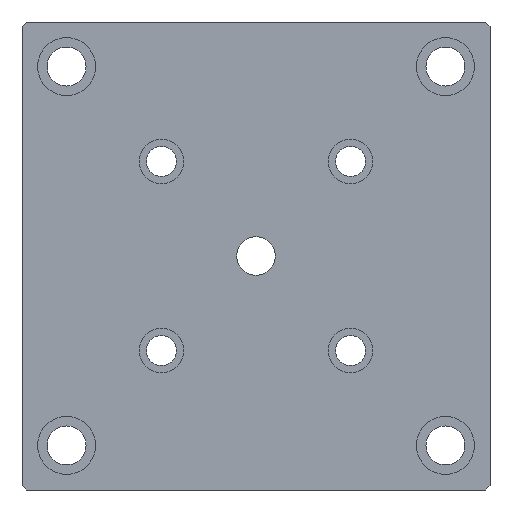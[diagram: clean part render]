
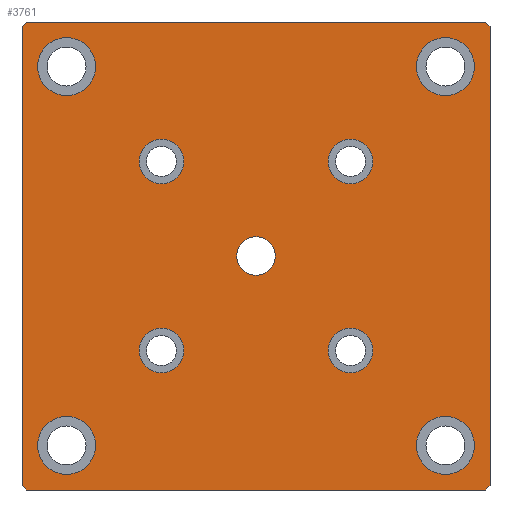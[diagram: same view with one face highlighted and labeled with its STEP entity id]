
A CAD part, front view. The second image highlights one B-rep face of the part: STEP entity #3761.
In plain terms, the highlighted planar face has unit normal (0, -1, 0).
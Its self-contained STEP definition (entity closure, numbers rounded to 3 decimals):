
#45=CIRCLE('',#3884,13.);
#46=CIRCLE('',#3885,13.);
#50=CIRCLE('',#3892,13.);
#51=CIRCLE('',#3893,13.);
#55=CIRCLE('',#3900,13.);
#56=CIRCLE('',#3901,13.);
#60=CIRCLE('',#3908,13.);
#61=CIRCLE('',#3909,13.);
#65=CIRCLE('',#3916,10.);
#66=CIRCLE('',#3917,10.);
#70=CIRCLE('',#3924,10.);
#71=CIRCLE('',#3925,10.);
#75=CIRCLE('',#3932,10.);
#76=CIRCLE('',#3933,10.);
#80=CIRCLE('',#3940,10.);
#81=CIRCLE('',#3941,10.);
#82=CIRCLE('',#3946,8.647);
#115=FACE_BOUND('',#811,.T.);
#116=FACE_BOUND('',#812,.T.);
#117=FACE_BOUND('',#813,.T.);
#118=FACE_BOUND('',#814,.T.);
#119=FACE_BOUND('',#815,.T.);
#120=FACE_BOUND('',#816,.T.);
#121=FACE_BOUND('',#817,.T.);
#122=FACE_BOUND('',#818,.T.);
#123=FACE_BOUND('',#819,.T.);
#577=FACE_OUTER_BOUND('',#810,.T.);
#810=EDGE_LOOP('',(#3411,#3412,#3413,#3414,#3415,#3416,#3417,#3418));
#811=EDGE_LOOP('',(#3419,#3420));
#812=EDGE_LOOP('',(#3421,#3422));
#813=EDGE_LOOP('',(#3423,#3424));
#814=EDGE_LOOP('',(#3425,#3426));
#815=EDGE_LOOP('',(#3427,#3428));
#816=EDGE_LOOP('',(#3429,#3430));
#817=EDGE_LOOP('',(#3431,#3432));
#818=EDGE_LOOP('',(#3433,#3434));
#819=EDGE_LOOP('',(#3435));
#1132=LINE('',#6820,#1452);
#1134=LINE('',#6824,#1454);
#1136=LINE('',#6828,#1456);
#1137=LINE('',#6830,#1457);
#1138=LINE('',#6832,#1458);
#1139=LINE('',#6834,#1459);
#1140=LINE('',#6836,#1460);
#1141=LINE('',#6837,#1461);
#1452=VECTOR('',#4569,10.);
#1454=VECTOR('',#4573,10.);
#1456=VECTOR('',#4577,10.);
#1457=VECTOR('',#4578,10.);
#1458=VECTOR('',#4579,10.);
#1459=VECTOR('',#4580,10.);
#1460=VECTOR('',#4581,10.);
#1461=VECTOR('',#4582,10.);
#1791=VERTEX_POINT('',#6704);
#1792=VERTEX_POINT('',#6705);
#1796=VERTEX_POINT('',#6719);
#1797=VERTEX_POINT('',#6720);
#1801=VERTEX_POINT('',#6734);
#1802=VERTEX_POINT('',#6735);
#1806=VERTEX_POINT('',#6749);
#1807=VERTEX_POINT('',#6750);
#1811=VERTEX_POINT('',#6764);
#1812=VERTEX_POINT('',#6765);
#1816=VERTEX_POINT('',#6779);
#1817=VERTEX_POINT('',#6780);
#1821=VERTEX_POINT('',#6794);
#1822=VERTEX_POINT('',#6795);
#1826=VERTEX_POINT('',#6809);
#1827=VERTEX_POINT('',#6810);
#1828=VERTEX_POINT('',#6817);
#1829=VERTEX_POINT('',#6819);
#1830=VERTEX_POINT('',#6823);
#1831=VERTEX_POINT('',#6827);
#1832=VERTEX_POINT('',#6829);
#1833=VERTEX_POINT('',#6831);
#1834=VERTEX_POINT('',#6833);
#1835=VERTEX_POINT('',#6835);
#1836=VERTEX_POINT('',#6838);
#2311=EDGE_CURVE('',#1791,#1792,#45,.T.);
#2312=EDGE_CURVE('',#1792,#1791,#46,.T.);
#2318=EDGE_CURVE('',#1796,#1797,#50,.T.);
#2319=EDGE_CURVE('',#1797,#1796,#51,.T.);
#2325=EDGE_CURVE('',#1801,#1802,#55,.T.);
#2326=EDGE_CURVE('',#1802,#1801,#56,.T.);
#2332=EDGE_CURVE('',#1806,#1807,#60,.T.);
#2333=EDGE_CURVE('',#1807,#1806,#61,.T.);
#2339=EDGE_CURVE('',#1811,#1812,#65,.T.);
#2340=EDGE_CURVE('',#1812,#1811,#66,.T.);
#2346=EDGE_CURVE('',#1816,#1817,#70,.T.);
#2347=EDGE_CURVE('',#1817,#1816,#71,.T.);
#2353=EDGE_CURVE('',#1821,#1822,#75,.T.);
#2354=EDGE_CURVE('',#1822,#1821,#76,.T.);
#2360=EDGE_CURVE('',#1826,#1827,#80,.T.);
#2361=EDGE_CURVE('',#1827,#1826,#81,.T.);
#2365=EDGE_CURVE('',#1828,#1829,#1132,.T.);
#2367=EDGE_CURVE('',#1830,#1829,#1134,.T.);
#2369=EDGE_CURVE('',#1828,#1831,#1136,.T.);
#2370=EDGE_CURVE('',#1832,#1831,#1137,.T.);
#2371=EDGE_CURVE('',#1832,#1833,#1138,.T.);
#2372=EDGE_CURVE('',#1834,#1833,#1139,.T.);
#2373=EDGE_CURVE('',#1834,#1835,#1140,.T.);
#2374=EDGE_CURVE('',#1830,#1835,#1141,.T.);
#2375=EDGE_CURVE('',#1836,#1836,#82,.T.);
#3411=ORIENTED_EDGE('',*,*,#2365,.F.);
#3412=ORIENTED_EDGE('',*,*,#2369,.T.);
#3413=ORIENTED_EDGE('',*,*,#2370,.F.);
#3414=ORIENTED_EDGE('',*,*,#2371,.T.);
#3415=ORIENTED_EDGE('',*,*,#2372,.F.);
#3416=ORIENTED_EDGE('',*,*,#2373,.T.);
#3417=ORIENTED_EDGE('',*,*,#2374,.F.);
#3418=ORIENTED_EDGE('',*,*,#2367,.T.);
#3419=ORIENTED_EDGE('',*,*,#2311,.T.);
#3420=ORIENTED_EDGE('',*,*,#2312,.T.);
#3421=ORIENTED_EDGE('',*,*,#2318,.T.);
#3422=ORIENTED_EDGE('',*,*,#2319,.T.);
#3423=ORIENTED_EDGE('',*,*,#2325,.T.);
#3424=ORIENTED_EDGE('',*,*,#2326,.T.);
#3425=ORIENTED_EDGE('',*,*,#2332,.T.);
#3426=ORIENTED_EDGE('',*,*,#2333,.T.);
#3427=ORIENTED_EDGE('',*,*,#2339,.T.);
#3428=ORIENTED_EDGE('',*,*,#2340,.T.);
#3429=ORIENTED_EDGE('',*,*,#2346,.T.);
#3430=ORIENTED_EDGE('',*,*,#2347,.T.);
#3431=ORIENTED_EDGE('',*,*,#2353,.T.);
#3432=ORIENTED_EDGE('',*,*,#2354,.T.);
#3433=ORIENTED_EDGE('',*,*,#2360,.T.);
#3434=ORIENTED_EDGE('',*,*,#2361,.T.);
#3435=ORIENTED_EDGE('',*,*,#2375,.T.);
#3561=PLANE('',#3945);
#3761=ADVANCED_FACE('',(#577,#115,#116,#117,#118,#119,#120,#121,#122,#123),
#3561,.F.);
#3884=AXIS2_PLACEMENT_3D('',#6706,#4432,#4433);
#3885=AXIS2_PLACEMENT_3D('',#6707,#4434,#4435);
#3892=AXIS2_PLACEMENT_3D('',#6721,#4450,#4451);
#3893=AXIS2_PLACEMENT_3D('',#6722,#4452,#4453);
#3900=AXIS2_PLACEMENT_3D('',#6736,#4468,#4469);
#3901=AXIS2_PLACEMENT_3D('',#6737,#4470,#4471);
#3908=AXIS2_PLACEMENT_3D('',#6751,#4486,#4487);
#3909=AXIS2_PLACEMENT_3D('',#6752,#4488,#4489);
#3916=AXIS2_PLACEMENT_3D('',#6766,#4504,#4505);
#3917=AXIS2_PLACEMENT_3D('',#6767,#4506,#4507);
#3924=AXIS2_PLACEMENT_3D('',#6781,#4522,#4523);
#3925=AXIS2_PLACEMENT_3D('',#6782,#4524,#4525);
#3932=AXIS2_PLACEMENT_3D('',#6796,#4540,#4541);
#3933=AXIS2_PLACEMENT_3D('',#6797,#4542,#4543);
#3940=AXIS2_PLACEMENT_3D('',#6811,#4558,#4559);
#3941=AXIS2_PLACEMENT_3D('',#6812,#4560,#4561);
#3945=AXIS2_PLACEMENT_3D('',#6826,#4575,#4576);
#3946=AXIS2_PLACEMENT_3D('',#6839,#4583,#4584);
#4432=DIRECTION('center_axis',(0.,1.,0.));
#4433=DIRECTION('ref_axis',(0.,0.,-1.));
#4434=DIRECTION('center_axis',(0.,1.,0.));
#4435=DIRECTION('ref_axis',(0.,0.,-1.));
#4450=DIRECTION('center_axis',(0.,1.,0.));
#4451=DIRECTION('ref_axis',(1.,0.,0.));
#4452=DIRECTION('center_axis',(0.,1.,0.));
#4453=DIRECTION('ref_axis',(1.,0.,0.));
#4468=DIRECTION('center_axis',(0.,1.,0.));
#4469=DIRECTION('ref_axis',(0.,0.,1.));
#4470=DIRECTION('center_axis',(0.,1.,0.));
#4471=DIRECTION('ref_axis',(0.,0.,1.));
#4486=DIRECTION('center_axis',(0.,1.,0.));
#4487=DIRECTION('ref_axis',(-1.,0.,0.));
#4488=DIRECTION('center_axis',(0.,1.,0.));
#4489=DIRECTION('ref_axis',(-1.,0.,0.));
#4504=DIRECTION('center_axis',(0.,1.,0.));
#4505=DIRECTION('ref_axis',(0.,0.,-1.));
#4506=DIRECTION('center_axis',(0.,1.,0.));
#4507=DIRECTION('ref_axis',(0.,0.,-1.));
#4522=DIRECTION('center_axis',(0.,1.,0.));
#4523=DIRECTION('ref_axis',(1.,0.,0.));
#4524=DIRECTION('center_axis',(0.,1.,0.));
#4525=DIRECTION('ref_axis',(1.,0.,0.));
#4540=DIRECTION('center_axis',(0.,1.,0.));
#4541=DIRECTION('ref_axis',(0.,0.,1.));
#4542=DIRECTION('center_axis',(0.,1.,0.));
#4543=DIRECTION('ref_axis',(0.,0.,1.));
#4558=DIRECTION('center_axis',(0.,1.,0.));
#4559=DIRECTION('ref_axis',(-1.,0.,0.));
#4560=DIRECTION('center_axis',(0.,1.,0.));
#4561=DIRECTION('ref_axis',(-1.,0.,0.));
#4569=DIRECTION('',(0.707,0.,-0.707));
#4573=DIRECTION('',(0.,0.,1.));
#4575=DIRECTION('center_axis',(0.,1.,0.));
#4576=DIRECTION('ref_axis',(0.,0.,1.));
#4577=DIRECTION('',(-1.,0.,0.));
#4578=DIRECTION('',(0.707,0.,0.707));
#4579=DIRECTION('',(0.,0.,-1.));
#4580=DIRECTION('',(-0.707,0.,0.707));
#4581=DIRECTION('',(1.,0.,0.));
#4582=DIRECTION('',(-0.707,0.,-0.707));
#4583=DIRECTION('center_axis',(0.,1.,0.));
#4584=DIRECTION('ref_axis',(1.,0.,0.));
#6704=CARTESIAN_POINT('',(-20.,0.,-33.));
#6705=CARTESIAN_POINT('',(-20.,0.,-7.));
#6706=CARTESIAN_POINT('Origin',(-20.,0.,-20.));
#6707=CARTESIAN_POINT('Origin',(-20.,0.,-20.));
#6719=CARTESIAN_POINT('',(-177.,0.,-20.));
#6720=CARTESIAN_POINT('',(-203.,0.,-20.));
#6721=CARTESIAN_POINT('Origin',(-190.,0.,-20.));
#6722=CARTESIAN_POINT('Origin',(-190.,0.,-20.));
#6734=CARTESIAN_POINT('',(-190.,0.,-177.));
#6735=CARTESIAN_POINT('',(-190.,0.,-203.));
#6736=CARTESIAN_POINT('Origin',(-190.,0.,-190.));
#6737=CARTESIAN_POINT('Origin',(-190.,0.,-190.));
#6749=CARTESIAN_POINT('',(-33.,0.,-190.));
#6750=CARTESIAN_POINT('',(-7.,0.,-190.));
#6751=CARTESIAN_POINT('Origin',(-20.,0.,-190.));
#6752=CARTESIAN_POINT('Origin',(-20.,0.,-190.));
#6764=CARTESIAN_POINT('',(-62.574,0.,-72.574));
#6765=CARTESIAN_POINT('',(-62.574,0.,-52.574));
#6766=CARTESIAN_POINT('Origin',(-62.574,0.,-62.574));
#6767=CARTESIAN_POINT('Origin',(-62.574,0.,-62.574));
#6779=CARTESIAN_POINT('',(-137.426,0.,-62.574));
#6780=CARTESIAN_POINT('',(-157.426,0.,-62.574));
#6781=CARTESIAN_POINT('Origin',(-147.426,0.,-62.574));
#6782=CARTESIAN_POINT('Origin',(-147.426,0.,-62.574));
#6794=CARTESIAN_POINT('',(-147.426,0.,-137.426));
#6795=CARTESIAN_POINT('',(-147.426,0.,-157.426));
#6796=CARTESIAN_POINT('Origin',(-147.426,0.,-147.426));
#6797=CARTESIAN_POINT('Origin',(-147.426,0.,-147.426));
#6809=CARTESIAN_POINT('',(-72.574,0.,-147.426));
#6810=CARTESIAN_POINT('',(-52.574,0.,-147.426));
#6811=CARTESIAN_POINT('Origin',(-62.574,0.,-147.426));
#6812=CARTESIAN_POINT('Origin',(-62.574,0.,-147.426));
#6817=CARTESIAN_POINT('',(-2.,0.,0.));
#6819=CARTESIAN_POINT('',(0.,0.,-2.));
#6820=CARTESIAN_POINT('',(-1.,0.,-1.));
#6823=CARTESIAN_POINT('',(0.,0.,-208.));
#6824=CARTESIAN_POINT('',(0.,0.,-210.));
#6826=CARTESIAN_POINT('Origin',(-105.,0.,-105.));
#6827=CARTESIAN_POINT('',(-208.,0.,0.));
#6828=CARTESIAN_POINT('',(0.,0.,0.));
#6829=CARTESIAN_POINT('',(-210.,0.,-2.));
#6830=CARTESIAN_POINT('',(-209.,0.,-1.));
#6831=CARTESIAN_POINT('',(-210.,0.,-208.));
#6832=CARTESIAN_POINT('',(-210.,0.,0.));
#6833=CARTESIAN_POINT('',(-208.,0.,-210.));
#6834=CARTESIAN_POINT('',(-209.,0.,-209.));
#6835=CARTESIAN_POINT('',(-2.,0.,-210.));
#6836=CARTESIAN_POINT('',(-210.,0.,-210.));
#6837=CARTESIAN_POINT('',(-1.,0.,-209.));
#6838=CARTESIAN_POINT('',(-113.647,0.,-105.));
#6839=CARTESIAN_POINT('Origin',(-105.,0.,-105.));
